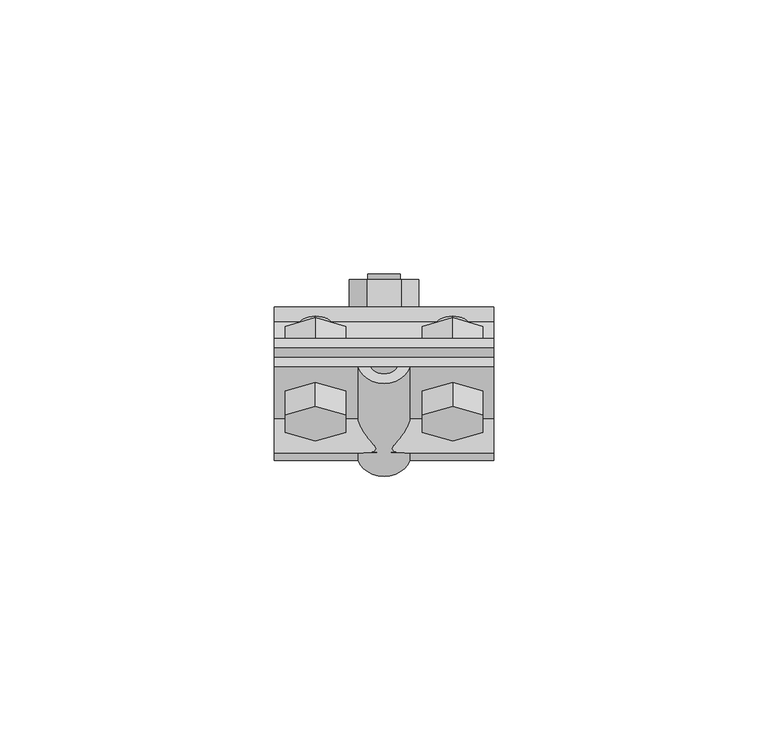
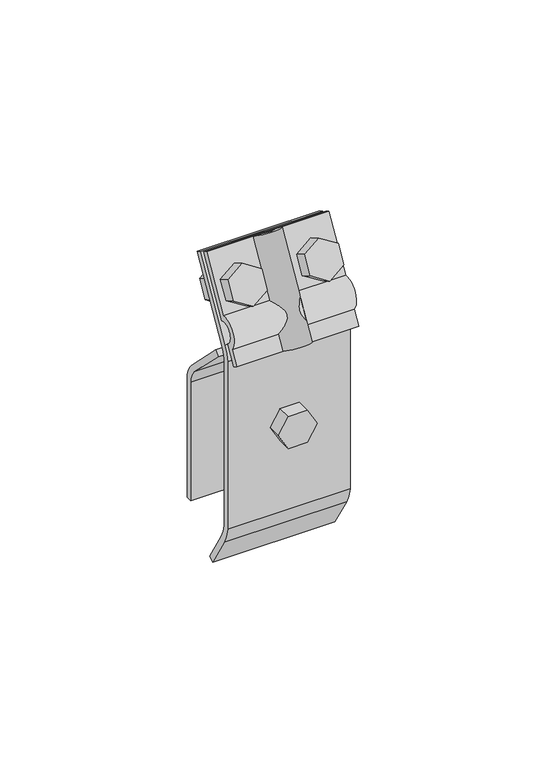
"""IFC4 building model written with IfcOpenShell, lengths in millimetres: proxy geometry, КНС_ДержательПруткаНаВодостоке_DKC : ND2308CU_Медь."""

from ifc_helpers import new_model, si_unit, point, frame, frame_2d, origin, origin_2d, place, context, project, spatial, polyline, circle_curve, trimmed, segment, composite_curve, outline, extrude, source, transform, mapped, element, save


def security_devices_2277527c(model_context):
    return source(origin(), model_context, "Body", "SweptSolid", [
        extrude(outline(composite_curve([segment(trimmed(circle_curve(frame_2d((-7.5516601, -28.1324272)), 15.6441884), [point((-20.9613469, -36.1897799))], [point((-23.0032426, -30.5797174))], False, "CARTESIAN"), True, "CONTINUOUS"), segment(polyline([(-23.0032426, -30.5797174), (-23.0032426, 27.4409705)]), True, "CONTINUOUS"), segment(trimmed(circle_curve(frame_2d((-10.0163846, 25.5470105)), 13.1242358), [point((-23.0032426, 27.4409705))], [point((-21.3823062, 32.1091283))], False, "CARTESIAN"), True, "CONTINUOUS"), segment(polyline([(-21.3823062, 32.1091283), (-7.5270175, 56.1071923), (-5.7949667, 55.1071923), (-19.6502554, 31.1091283)]), True, "CONTINUOUS"), segment(trimmed(circle_curve(frame_2d((-10.0163846, 25.5470105)), 11.1242358), [point((-19.6502554, 31.1091283))], [point((-21.0032426, 27.2898741))], True, "CARTESIAN"), True, "CONTINUOUS"), segment(polyline([(-21.0032426, 27.2898741), (-21.0032426, -30.4168978)]), True, "CONTINUOUS"), segment(trimmed(circle_curve(frame_2d((-7.5516601, -28.1324272)), 13.6441884), [point((-21.0032426, -30.4168978))], [point((-19.2470123, -35.1597037))], True, "CARTESIAN"), True, "CONTINUOUS"), segment(polyline([(-19.2470123, -35.1597037), (-12.7077561, -46.0428536), (-14.3500607, -47.1928077), (-20.9613469, -36.1897799)]), True, "CONTINUOUS")], self_intersect=False)), frame((-20.0, 0.0, 0.0), z_axis=(1.0, 0.0, 0.0), x_axis=(0.0, 1.0, 0.0)), (0.0, 0.0, 1.0), 40.0),
        extrude(outline(composite_curve([segment(trimmed(circle_curve(frame_2d((-8.9722076, 7.4199541)), 8.9726337), [point((-2.6275975, 13.7645642))], [point((0.0, 7.5073971))], False, "CARTESIAN"), True, "CONTINUOUS"), segment(polyline([(0.0, 7.5073971), (0.0, -33.38335), (-2.0, -33.38335), (-2.0, 7.4970377)]), True, "CONTINUOUS"), segment(trimmed(circle_curve(frame_2d((-8.9722076, 7.4199541)), 6.9726337), [point((-2.0, 7.4970377))], [point((-4.041811, 12.3503506))], True, "CARTESIAN"), True, "CONTINUOUS"), segment(polyline([(-4.041811, 12.3503506), (-17.6229872, 25.9315268), (-16.2087736, 27.3457403), (-2.6275975, 13.7645642)]), True, "CONTINUOUS")], self_intersect=False)), frame((-20.0, 0.0, 0.0), z_axis=(1.0, 0.0, 0.0), x_axis=(0.0, 1.0, 0.0)), (0.0, 0.0, 1.0), 40.0),
        extrude(outline(polyline([(-7.0, -3.1754265), (-12.5, -6.350853), (-18.0, -3.1754265), (-18.0, 3.1754265), (-12.5, 6.350853), (-7.0, 3.1754265), (-7.0, -3.1754265)])), frame((0.0, -5.1204469, 40.9600719), z_axis=(0.0, -0.8660254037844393, 0.499999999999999), x_axis=(-1.0, 0.0, 0.0)), (0.0, 0.0, 1.0), 5.0),
        extrude(outline(composite_curve([segment(trimmed(circle_curve(frame_2d((-12.5, 0.0)), 3.0), [point((-12.5, -3.0))], [point((-12.5, 3.0))], False, "CARTESIAN"), True, "CONTINUOUS"), segment(trimmed(circle_curve(frame_2d((-12.5, 0.0)), 3.0), [point((-12.5, 3.0))], [point((-12.5, -3.0))], False, "CARTESIAN"), True, "CONTINUOUS")], self_intersect=False)), frame((0.0, -3.179573, 39.8395079), z_axis=(0.0, -0.8660254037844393, 0.4999999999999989), x_axis=(-1.0, 0.0, 0.0)), (0.0, 0.0, 1.0), 16.0),
        extrude(outline(polyline([(-7.0, 3.1754265), (-7.0, -3.1754265), (-12.5, -6.350853), (-18.0, -3.1754265), (-18.0, 3.1754265), (-12.5, 6.350853), (-7.0, 3.1754265)])), frame((0.0, -16.948372, 47.7889277), z_axis=(0.0, -0.8660254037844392, 0.4999999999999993), x_axis=(-1.0, 0.0, 0.0)), (0.0, 0.0, 1.0), 5.0),
        extrude(outline(polyline([(-7.0, 3.1754265), (-7.0, -3.1754265), (-12.5, -6.350853), (-18.0, -3.1754265), (-18.0, 3.1754265), (-12.5, 6.350853), (-7.0, 3.1754265)])), frame((0.0, -5.1204469, 40.9600719), z_axis=(0.0, -0.8660254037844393, 0.499999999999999), x_axis=(1.0, 0.0, 0.0)), (0.0, 0.0, 1.0), 5.0),
        extrude(outline(composite_curve([segment(trimmed(circle_curve(frame_2d((-12.5, 0.0)), 3.0), [point((-12.5, -3.0))], [point((-12.5, 3.0))], False, "CARTESIAN"), True, "CONTINUOUS"), segment(trimmed(circle_curve(frame_2d((-12.5, 0.0)), 3.0), [point((-12.5, 3.0))], [point((-12.5, -3.0))], False, "CARTESIAN"), True, "CONTINUOUS")], self_intersect=False)), frame((0.0, -3.179573, 39.8395079), z_axis=(0.0, -0.8660254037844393, 0.4999999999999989), x_axis=(1.0, 0.0, 0.0)), (0.0, 0.0, 1.0), 16.0),
        extrude(outline(polyline([(-7.0, -3.1754265), (-12.5, -6.350853), (-18.0, -3.1754265), (-18.0, 3.1754265), (-12.5, 6.350853), (-7.0, 3.1754265), (-7.0, -3.1754265)])), frame((0.0, -16.948372, 47.7889277), z_axis=(0.0, -0.8660254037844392, 0.4999999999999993), x_axis=(1.0, 0.0, 0.0)), (0.0, 0.0, 1.0), 5.0),
        extrude(outline(composite_curve([segment(trimmed(circle_curve(origin_2d(), 5.0), [point((4.7370877, -1.6))], [point((-4.7370877, -1.6))], False, "CARTESIAN"), True, "CONTINUOUS"), segment(polyline([(-4.7370877, -1.6), (-2.5377155, -1.6)]), True, "CONTINUOUS"), segment(trimmed(circle_curve(origin_2d(), 3.0), [point((-2.5377155, -1.6))], [point((2.5377155, -1.6))], True, "CARTESIAN"), True, "CONTINUOUS"), segment(polyline([(2.5377155, -1.6), (4.7370877, -1.6)]), True, "CONTINUOUS")], self_intersect=False)), frame((0.0, -26.6054785, 27.8623286), z_axis=(0.0, 0.49999999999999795, 0.8660254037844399), x_axis=(1.0, 0.0, 0.0)), (0.0, 0.0, 1.0), 34.0),
        extrude(outline(composite_curve([segment(polyline([(-22.9011344, 33.4784407), (-26.2590683, 27.6623286), (-27.9911191, 28.6623286), (-25.4394376, 33.0819706)]), True, "CONTINUOUS"), segment(trimmed(circle_curve(frame_2d((-21.1805935, 36.4335251)), 5.4194715), [point((-25.4394376, 33.0819706))], [point((-20.4074842, 41.7975696))], False, "CARTESIAN"), True, "CONTINUOUS"), segment(polyline([(-20.4074842, 41.7975696), (-10.9911191, 58.1071923), (-9.2590683, 57.1071923), (-19.4816858, 39.4010995)]), True, "CONTINUOUS"), segment(trimmed(circle_curve(frame_2d((-21.1805935, 36.4335251)), 3.4194715), [point((-19.4816858, 39.4010995))], [point((-22.9011344, 33.4784407))], True, "CARTESIAN"), True, "CONTINUOUS")], self_intersect=False)), frame((-20.0, 0.0, 0.0), z_axis=(1.0, 0.0, 0.0), x_axis=(0.0, 1.0, 0.0)), (0.0, 0.0, 1.0), 40.0),
        extrude(outline(composite_curve([segment(trimmed(circle_curve(origin_2d(), 3.0), [point((0.0, 3.0))], [point((0.0, -3.0))], False, "CARTESIAN"), True, "CONTINUOUS"), segment(trimmed(circle_curve(origin_2d(), 3.0), [point((0.0, -3.0))], [point((0.0, 3.0))], False, "CARTESIAN"), True, "CONTINUOUS")], self_intersect=False)), frame((0.0, -23.0032426, 0.0), z_axis=(0.0, 1.0, 0.0), x_axis=(0.0, 0.0, 1.0)), (0.0, 0.0, 1.0), 29.0032426),
        extrude(outline(polyline([(0.0, 6.350853), (5.5, 3.1754265), (5.5, -3.1754265), (0.0, -6.350853), (-5.5, -3.1754265), (-5.5, 3.1754265), (0.0, 6.350853)])), frame((0.0, 0.0, 0.0), z_axis=(0.0, 1.0, 0.0), x_axis=(0.0, 0.0, 1.0)), (0.0, 0.0, 1.0), 5.0),
        extrude(outline(polyline([(0.0, 6.350853), (5.5, 3.1754265), (5.5, -3.1754265), (0.0, -6.350853), (-5.5, -3.1754265), (-5.5, 3.1754265), (0.0, 6.350853)])), frame((0.0, -27.9772183, 0.0), z_axis=(0.0, 1.0, 0.0), x_axis=(0.0, 0.0, 1.0)), (0.0, 0.0, 1.0), 4.9772183),
    ])


if __name__ == "__main__":
    model = new_model("IFC4")
    model_context = context("Model", 3, world=origin())
    ifc_project = project(units=[si_unit("LENGTHUNIT", "METRE", prefix="MILLI")], contexts=[model_context])
    site = spatial("IfcSite", under=ifc_project)
    building = spatial("IfcBuilding", under=site)
    placement = place(None, origin())
    security_devices_shape = security_devices_2277527c(model_context)
    element("IfcBuildingElementProxy", 1, Name="КНС_ДержательПруткаНаВодостоке_DKC : ND2308CU_Медь", ObjectType="КНС_ДержательПруткаНаВодостоке_DKC : ND2308CU_Медь", at=placement, inside=building, context=model_context, shape_type="MappedRepresentation", body=[
        mapped(security_devices_shape, transform((0.0, 0.0, 0.0), x_axis=(1.0, 0.0, 0.0), y_axis=(0.0, 1.0, 0.0), z_axis=(0.0, 0.0, 1.0))),
    ])
    save(model, "model.ifc")
